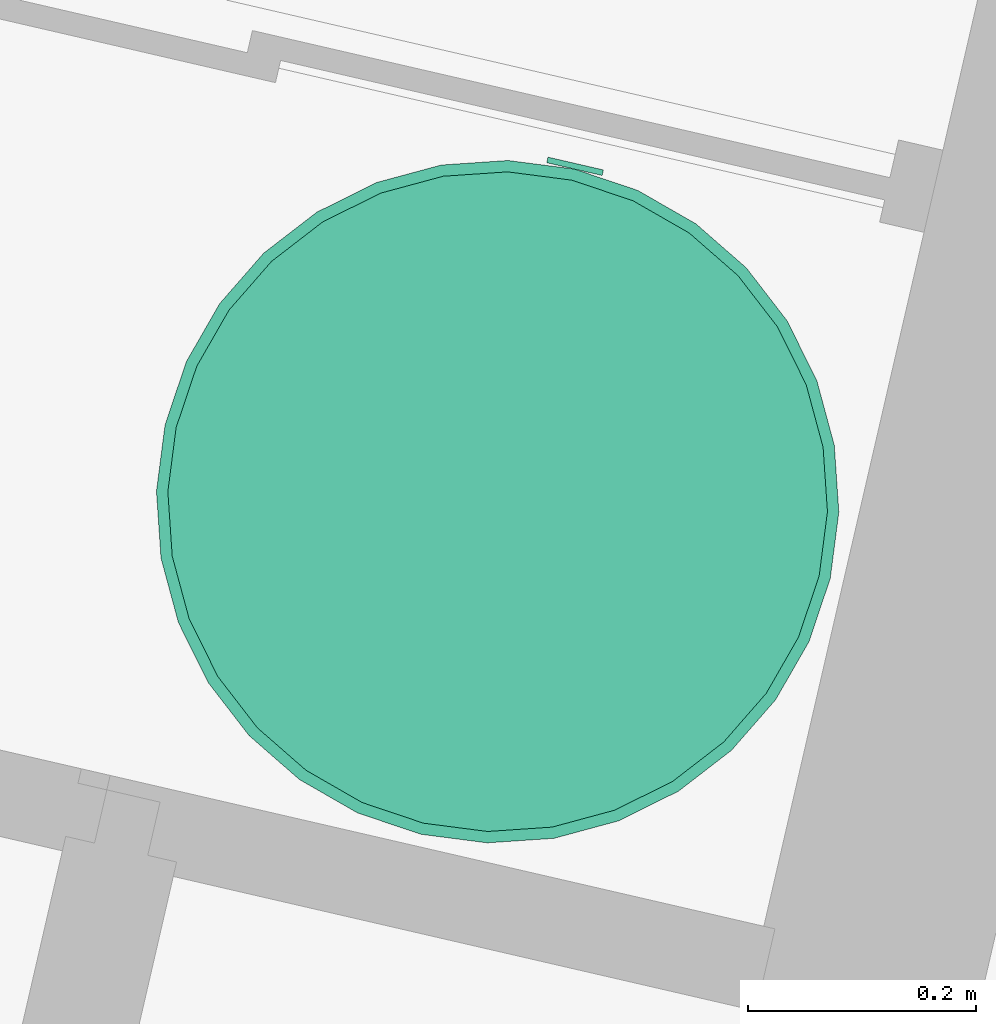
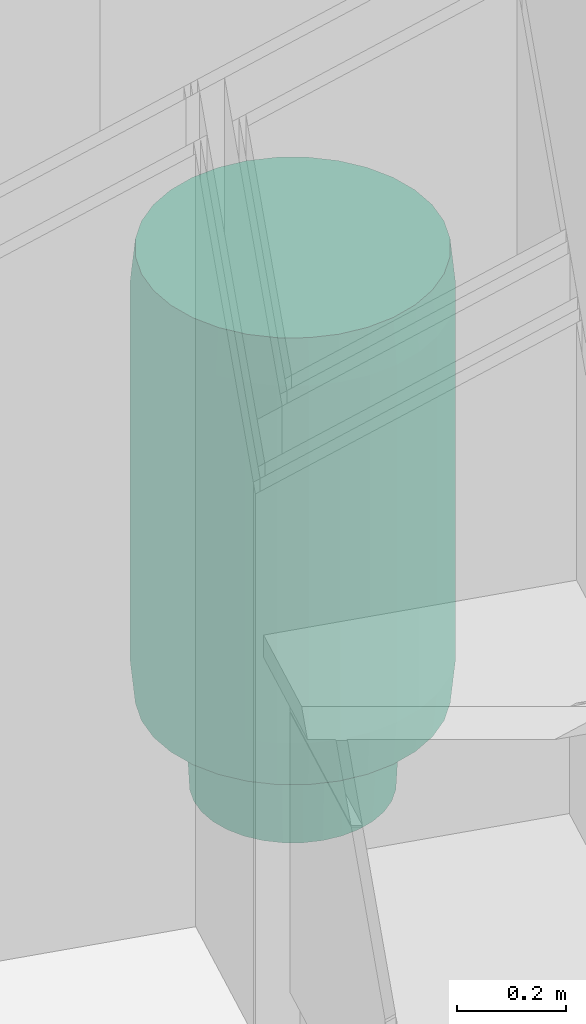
# One storey, part 91 of 119: 1 energy conversion device.
"""IFC2X3 building model written with IfcOpenShell, lengths in metres."""

from ifc_helpers import new_model, entity, si_unit, converted_unit, derived_unit, money_unit, direction, frame, origin_with_axes, place, context, subcontext, project, spatial, open_shell, faceted_brep, surface_model, source, transform, mapped, type_object, element, save


model = new_model("IFC2X3")

# Units and contexts
model_context = context("Model", 3, precision=1e-05, world=origin_with_axes(), true_north=direction((0.0, 1.0)))
body_context = subcontext(model_context, "Body", "Model", "MODEL_VIEW")
ifc_project = project(units=[si_unit("LENGTHUNIT", "METRE"), si_unit("AREAUNIT", "SQUARE_METRE"), si_unit("VOLUMEUNIT", "CUBIC_METRE"), converted_unit("PLANEANGLEUNIT", "DEGREE", entity("IfcPlaneAngleMeasure", 0.0174532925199), si_unit("PLANEANGLEUNIT", "RADIAN"), dimensions=[0, 0, 0, 0, 0, 0, 0]), si_unit("SOLIDANGLEUNIT", "STERADIAN"), money_unit("EUR"), converted_unit("TIMEUNIT", "Year", entity("IfcTimeMeasure", 31556926.0), si_unit("TIMEUNIT", "SECOND"), dimensions=[0, 0, 1, 0, 0, 0, 0]), si_unit("MASSUNIT", "GRAM", prefix="KILO"), si_unit("THERMODYNAMICTEMPERATUREUNIT", "DEGREE_CELSIUS"), si_unit("LUMINOUSINTENSITYUNIT", "LUMEN"), si_unit("ENERGYUNIT", "JOULE", prefix="MEGA"), derived_unit("THERMALCONDUCTANCEUNIT", [(si_unit("POWERUNIT", "WATT"), 1), (si_unit("LENGTHUNIT", "METRE"), -1), (si_unit("THERMODYNAMICTEMPERATUREUNIT", "KELVIN"), -1)]), derived_unit("SPECIFICHEATCAPACITYUNIT", [(si_unit("ENERGYUNIT", "JOULE"), 1), (si_unit("MASSUNIT", "GRAM", prefix="KILO"), -1), (si_unit("THERMODYNAMICTEMPERATUREUNIT", "KELVIN"), -1)]), derived_unit("MASSDENSITYUNIT", [(si_unit("MASSUNIT", "GRAM", prefix="KILO"), 1), (si_unit("VOLUMEUNIT", "CUBIC_METRE"), -1)])], contexts=[model_context])

# Site, building, storey
site_placement = place(None, origin_with_axes())
site = spatial("IfcSite", under=ifc_project, at=site_placement, Name="Site", CompositionType="ELEMENT")
building_placement = place(site_placement, origin_with_axes())
building = spatial("IfcBuilding", under=site, at=building_placement, Name="Bâtiment", CompositionType="ELEMENT")
storey_placement = place(building_placement, origin_with_axes())
storey = spatial("IfcBuildingStorey", under=building, at=storey_placement, Name="Rez-de-chaussée", CompositionType="ELEMENT", Elevation=0.0)

# Energy conversion device
heat_exchanger_type = type_object("IfcHeatExchangerType", Name="Chauffe-eau électrique 23", PredefinedType="SHELLANDTUBE")
shared_shape = source(origin_with_axes(), body_context, "Body", "SurfaceModel", [
    surface_model("IfcShellBasedSurfaceModel", [(-0.245, -0.0135, 0.2), (-0.245, -0.0135, 0.18), (-0.241505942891, -0.0130399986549, 0.18), (-0.241505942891, -0.0130399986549, 0.2), (-0.248494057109, -0.0130399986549, 0.2), (-0.248494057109, -0.0130399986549, 0.18), (-0.23825, -0.0116913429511, 0.18), (-0.23825, -0.0116913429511, 0.2), (-0.25175, -0.0116913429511, 0.2), (-0.25175, -0.0116913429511, 0.18), (-0.235454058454, -0.00954594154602, 0.18), (-0.235454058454, -0.00954594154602, 0.2), (-0.254545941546, -0.00954594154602, 0.2), (-0.254545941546, -0.00954594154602, 0.18), (-0.233308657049, -0.00675, 0.18), (-0.233308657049, -0.00675, 0.2), (-0.256691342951, -0.00675, 0.2), (-0.256691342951, -0.00675, 0.18), (-0.231960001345, -0.00349405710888, 0.18), (-0.231960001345, -0.00349405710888, 0.2), (-0.258039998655, -0.00349405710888, 0.2), (-0.258039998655, -0.00349405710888, 0.18), (-0.2315, 0.0, 0.18), (-0.2315, 0.0, 0.2), (-0.2585, 0.0, 0.2), (-0.2585, 0.0, 0.18), (-0.231960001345, 0.00349405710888, 0.18), (-0.231960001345, 0.00349405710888, 0.2), (-0.258039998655, 0.00349405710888, 0.2), (-0.258039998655, 0.00349405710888, 0.18), (-0.233308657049, 0.00675, 0.18), (-0.233308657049, 0.00675, 0.2), (-0.256691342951, 0.00675, 0.2), (-0.256691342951, 0.00675, 0.18), (-0.235454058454, 0.00954594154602, 0.18), (-0.235454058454, 0.00954594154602, 0.2), (-0.254545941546, 0.00954594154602, 0.2), (-0.254545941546, 0.00954594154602, 0.18), (-0.23825, 0.0116913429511, 0.18), (-0.23825, 0.0116913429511, 0.2), (-0.25175, 0.0116913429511, 0.2), (-0.25175, 0.0116913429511, 0.18), (-0.241505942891, 0.0130399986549, 0.18), (-0.241505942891, 0.0130399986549, 0.2), (-0.248494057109, 0.0130399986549, 0.2), (-0.248494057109, 0.0130399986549, 0.18), (-0.245, 0.0135, 0.18), (-0.245, 0.0135, 0.2)], [open_shell([[[0, 1, 2, 3]], [[4, 5, 1, 0]], [[3, 2, 6, 7]], [[8, 9, 5, 4]], [[7, 6, 10, 11]], [[12, 13, 9, 8]], [[11, 10, 14, 15]], [[16, 17, 13, 12]], [[15, 14, 18, 19]], [[20, 21, 17, 16]], [[19, 18, 22, 23]], [[24, 25, 21, 20]], [[23, 22, 26, 27]], [[28, 29, 25, 24]], [[27, 26, 30, 31]], [[32, 33, 29, 28]], [[31, 30, 34, 35]], [[36, 37, 33, 32]], [[35, 34, 38, 39]], [[40, 41, 37, 36]], [[39, 38, 42, 43]], [[44, 45, 41, 40]], [[43, 42, 46, 47]], [[47, 46, 45, 44]]])]),
    surface_model("IfcShellBasedSurfaceModel", [(0.245, -0.0135, 0.2), (0.245, -0.0135, 0.18), (0.248494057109, -0.0130399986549, 0.18), (0.248494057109, -0.0130399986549, 0.2), (0.241505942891, -0.0130399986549, 0.2), (0.241505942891, -0.0130399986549, 0.18), (0.25175, -0.0116913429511, 0.18), (0.25175, -0.0116913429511, 0.2), (0.23825, -0.0116913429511, 0.2), (0.23825, -0.0116913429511, 0.18), (0.254545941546, -0.00954594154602, 0.18), (0.254545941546, -0.00954594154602, 0.2), (0.235454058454, -0.00954594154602, 0.2), (0.235454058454, -0.00954594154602, 0.18), (0.256691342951, -0.00675, 0.18), (0.256691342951, -0.00675, 0.2), (0.233308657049, -0.00675, 0.2), (0.233308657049, -0.00675, 0.18), (0.258039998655, -0.00349405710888, 0.18), (0.258039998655, -0.00349405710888, 0.2), (0.231960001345, -0.00349405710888, 0.2), (0.231960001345, -0.00349405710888, 0.18), (0.2585, 0.0, 0.18), (0.2585, 0.0, 0.2), (0.2315, 0.0, 0.2), (0.2315, 0.0, 0.18), (0.258039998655, 0.00349405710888, 0.18), (0.258039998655, 0.00349405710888, 0.2), (0.231960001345, 0.00349405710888, 0.2), (0.231960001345, 0.00349405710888, 0.18), (0.256691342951, 0.00675, 0.18), (0.256691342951, 0.00675, 0.2), (0.233308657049, 0.00675, 0.2), (0.233308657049, 0.00675, 0.18), (0.254545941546, 0.00954594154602, 0.18), (0.254545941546, 0.00954594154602, 0.2), (0.235454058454, 0.00954594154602, 0.2), (0.235454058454, 0.00954594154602, 0.18), (0.25175, 0.0116913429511, 0.18), (0.25175, 0.0116913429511, 0.2), (0.23825, 0.0116913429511, 0.2), (0.23825, 0.0116913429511, 0.18), (0.248494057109, 0.0130399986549, 0.18), (0.248494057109, 0.0130399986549, 0.2), (0.241505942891, 0.0130399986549, 0.2), (0.241505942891, 0.0130399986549, 0.18), (0.245, 0.0135, 0.18), (0.245, 0.0135, 0.2)], [open_shell([[[0, 1, 2, 3]], [[4, 5, 1, 0]], [[3, 2, 6, 7]], [[8, 9, 5, 4]], [[7, 6, 10, 11]], [[12, 13, 9, 8]], [[11, 10, 14, 15]], [[16, 17, 13, 12]], [[15, 14, 18, 19]], [[20, 21, 17, 16]], [[19, 18, 22, 23]], [[24, 25, 21, 20]], [[23, 22, 26, 27]], [[28, 29, 25, 24]], [[27, 26, 30, 31]], [[32, 33, 29, 28]], [[31, 30, 34, 35]], [[36, 37, 33, 32]], [[35, 34, 38, 39]], [[40, 41, 37, 36]], [[39, 38, 42, 43]], [[44, 45, 41, 40]], [[43, 42, 46, 47]], [[47, 46, 45, 44]]])]),
    faceted_brep([(-0.025, -0.305, 0.4), (-0.025, -0.3, 0.4), (0.025, -0.3, 0.4), (0.025, -0.305, 0.4), (-0.025, -0.305, 0.42), (-0.025, -0.3, 0.42), (0.025, -0.3, 0.42), (0.025, -0.305, 0.42)], [[[0, 1, 2, 3]], [[0, 4, 5, 1]], [[1, 5, 6, 2]], [[2, 6, 7, 3]], [[3, 7, 4, 0]], [[7, 6, 5, 4]]]),
    faceted_brep([(0.0222836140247, -0.16, 0.088519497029), (0.02, -0.16, 0.1), (0.0222836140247, -0.16, 0.111480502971), (0.0287867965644, -0.16, 0.121213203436), (0.038519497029, -0.16, 0.127716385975), (0.05, -0.16, 0.13), (0.061480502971, -0.16, 0.127716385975), (0.0712132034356, -0.16, 0.121213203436), (0.0777163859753, -0.16, 0.111480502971), (0.08, -0.16, 0.1), (0.0777163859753, -0.16, 0.088519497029), (0.0712132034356, -0.16, 0.0787867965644), (0.061480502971, -0.16, 0.0722836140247), (0.05, -0.16, 0.07), (0.038519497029, -0.16, 0.0722836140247), (0.0287867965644, -0.16, 0.0787867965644), (0.0222836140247, -0.175, 0.088519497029), (0.02, -0.175, 0.1), (0.0222836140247, -0.175, 0.111480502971), (0.0287867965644, -0.175, 0.121213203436), (0.038519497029, -0.175, 0.127716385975), (0.05, -0.175, 0.13), (0.061480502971, -0.175, 0.127716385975), (0.0712132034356, -0.175, 0.121213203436), (0.0777163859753, -0.175, 0.111480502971), (0.08, -0.175, 0.1), (0.0777163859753, -0.175, 0.088519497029), (0.0712132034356, -0.175, 0.0787867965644), (0.061480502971, -0.175, 0.0722836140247), (0.05, -0.175, 0.07), (0.038519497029, -0.175, 0.0722836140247), (0.0287867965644, -0.175, 0.0787867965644)], [[[0, 1, 2, 3, 4, 5, 6, 7, 8, 9, 10, 11, 12, 13, 14, 15]], [[0, 16, 17, 1]], [[1, 17, 18, 2]], [[2, 18, 19, 3]], [[3, 19, 20, 4]], [[4, 20, 21, 5]], [[5, 21, 22, 6]], [[6, 22, 23, 7]], [[7, 23, 24, 8]], [[8, 24, 25, 9]], [[9, 25, 26, 10]], [[10, 26, 27, 11]], [[11, 27, 28, 12]], [[12, 28, 29, 13]], [[13, 29, 30, 14]], [[14, 30, 31, 15]], [[15, 31, 16, 0]], [[16, 31, 30, 29, 28, 27, 26, 25, 24, 23, 22, 21, 20, 19, 18, 17]]]),
    faceted_brep([(-0.0777163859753, -0.16, 0.088519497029), (-0.08, -0.16, 0.1), (-0.0777163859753, -0.16, 0.111480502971), (-0.0712132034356, -0.16, 0.121213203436), (-0.061480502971, -0.16, 0.127716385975), (-0.05, -0.16, 0.13), (-0.038519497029, -0.16, 0.127716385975), (-0.0287867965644, -0.16, 0.121213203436), (-0.0222836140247, -0.16, 0.111480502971), (-0.02, -0.16, 0.1), (-0.0222836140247, -0.16, 0.088519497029), (-0.0287867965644, -0.16, 0.0787867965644), (-0.038519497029, -0.16, 0.0722836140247), (-0.05, -0.16, 0.07), (-0.061480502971, -0.16, 0.0722836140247), (-0.0712132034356, -0.16, 0.0787867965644), (-0.0777163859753, -0.175, 0.088519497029), (-0.08, -0.175, 0.1), (-0.0777163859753, -0.175, 0.111480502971), (-0.0712132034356, -0.175, 0.121213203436), (-0.061480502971, -0.175, 0.127716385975), (-0.05, -0.175, 0.13), (-0.038519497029, -0.175, 0.127716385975), (-0.0287867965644, -0.175, 0.121213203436), (-0.0222836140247, -0.175, 0.111480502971), (-0.02, -0.175, 0.1), (-0.0222836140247, -0.175, 0.088519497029), (-0.0287867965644, -0.175, 0.0787867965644), (-0.038519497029, -0.175, 0.0722836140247), (-0.05, -0.175, 0.07), (-0.061480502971, -0.175, 0.0722836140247), (-0.0712132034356, -0.175, 0.0787867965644)], [[[0, 1, 2, 3, 4, 5, 6, 7, 8, 9, 10, 11, 12, 13, 14, 15]], [[0, 16, 17, 1]], [[1, 17, 18, 2]], [[2, 18, 19, 3]], [[3, 19, 20, 4]], [[4, 20, 21, 5]], [[5, 21, 22, 6]], [[6, 22, 23, 7]], [[7, 23, 24, 8]], [[8, 24, 25, 9]], [[9, 25, 26, 10]], [[10, 26, 27, 11]], [[11, 27, 28, 12]], [[12, 28, 29, 13]], [[13, 29, 30, 14]], [[14, 30, 31, 15]], [[15, 31, 16, 0]], [[16, 31, 30, 29, 28, 27, 26, 25, 24, 23, 22, 21, 20, 19, 18, 17]]]),
    faceted_brep([(-0.186349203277, -0.0370671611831, 0.0), (-0.196157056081, -0.0390180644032, 0.2), (-0.2, 0.0, 0.2), (-0.19, 0.0, 0.0), (-0.175537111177, -0.0727098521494, 0.0), (-0.184775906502, -0.076536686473, 0.2), (-0.166293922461, -0.111114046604, 0.2), (-0.141421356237, -0.141421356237, 0.2), (-0.118783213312, -0.16, 0.2), (0.118783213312, -0.16, 0.2), (0.141421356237, -0.141421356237, 0.2), (0.166293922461, -0.111114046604, 0.2), (0.184775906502, -0.076536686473, 0.2), (0.196157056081, -0.0390180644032, 0.2), (0.2, 0.0, 0.2), (0.196157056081, 0.0390180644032, 0.2), (0.184775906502, 0.076536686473, 0.2), (0.166293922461, 0.111114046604, 0.2), (0.141421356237, 0.141421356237, 0.2), (0.111114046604, 0.166293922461, 0.2), (0.076536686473, 0.184775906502, 0.2), (0.0390180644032, 0.196157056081, 0.2), (0.0, 0.2, 0.2), (-0.0390180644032, 0.196157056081, 0.2), (-0.076536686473, 0.184775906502, 0.2), (-0.111114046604, 0.166293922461, 0.2), (-0.141421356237, 0.141421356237, 0.2), (-0.166293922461, 0.111114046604, 0.2), (-0.184775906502, 0.076536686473, 0.2), (-0.196157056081, 0.0390180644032, 0.2), (-0.186349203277, 0.0370671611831, 0.0), (-0.175537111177, 0.0727098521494, 0.0), (-0.157979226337, 0.105558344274, 0.0), (-0.134350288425, 0.134350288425, 0.0), (-0.105558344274, 0.157979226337, 0.0), (-0.0727098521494, 0.175537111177, 0.0), (-0.0370671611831, 0.186349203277, 0.0), (0.0, 0.19, 0.0), (0.0370671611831, 0.186349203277, 0.0), (0.0727098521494, 0.175537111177, 0.0), (0.105558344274, 0.157979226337, 0.0), (0.134350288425, 0.134350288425, 0.0), (0.157979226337, 0.105558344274, 0.0), (0.175537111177, 0.0727098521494, 0.0), (0.186349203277, 0.0370671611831, 0.0), (0.19, 0.0, 0.0), (0.186349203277, -0.0370671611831, 0.0), (0.175537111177, -0.0727098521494, 0.0), (0.157979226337, -0.105558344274, 0.0), (0.134350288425, -0.134350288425, 0.0), (0.105558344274, -0.157979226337, 0.0), (0.101777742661, -0.16, 0.0), (-0.101777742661, -0.16, 0.0), (-0.105558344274, -0.157979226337, 0.0), (-0.134350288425, -0.134350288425, 0.0), (-0.157979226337, -0.105558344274, 0.0), (-0.106908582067, -0.16, 0.0486072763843), (0.106908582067, -0.16, 0.0486072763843)], [[[0, 1, 2, 3]], [[4, 5, 1, 0]], [[1, 5, 6, 7, 8, 9, 10, 11, 12, 13, 14, 15, 16, 17, 18, 19, 20, 21, 22, 23, 24, 25, 26, 27, 28, 29, 2]], [[3, 2, 29, 30]], [[0, 3, 30, 31, 32, 33, 34, 35, 36, 37, 38, 39, 40, 41, 42, 43, 44, 45, 46, 47, 48, 49, 50, 51, 52, 53, 54, 55, 4]], [[55, 6, 5, 4]], [[54, 7, 6, 55]], [[53, 56, 8, 7, 54]], [[51, 57, 9, 8, 56, 52]], [[49, 10, 9, 57, 50]], [[48, 11, 10, 49]], [[47, 12, 11, 48]], [[46, 13, 12, 47]], [[45, 14, 13, 46]], [[44, 15, 14, 45]], [[43, 16, 15, 44]], [[42, 17, 16, 43]], [[41, 18, 17, 42]], [[40, 19, 18, 41]], [[39, 20, 19, 40]], [[38, 21, 20, 39]], [[37, 22, 21, 38]], [[36, 23, 22, 37]], [[35, 24, 23, 36]], [[34, 25, 24, 35]], [[33, 26, 25, 34]], [[32, 27, 26, 33]], [[31, 28, 27, 32]], [[30, 29, 28, 31]], [[50, 57, 51]], [[52, 56, 53]]]),
    faceted_brep([(-0.284427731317, -0.0565761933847, 0.2), (-0.294235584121, -0.0585270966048, 0.3), (-0.3, 0.0, 0.3), (-0.29, 0.0, 0.2), (-0.267925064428, -0.110978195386, 0.2), (-0.277163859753, -0.11480502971, 0.3), (-0.249440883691, -0.166671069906, 0.3), (-0.212132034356, -0.212132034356, 0.3), (-0.166671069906, -0.249440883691, 0.3), (-0.11480502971, -0.277163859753, 0.3), (-0.0585270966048, -0.294235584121, 0.3), (0.0, -0.3, 0.3), (0.0585270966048, -0.294235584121, 0.3), (0.11480502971, -0.277163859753, 0.3), (0.166671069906, -0.249440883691, 0.3), (0.212132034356, -0.212132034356, 0.3), (0.249440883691, -0.166671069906, 0.3), (0.277163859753, -0.11480502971, 0.3), (0.294235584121, -0.0585270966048, 0.3), (0.3, 0.0, 0.3), (0.294235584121, 0.0585270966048, 0.3), (0.277163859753, 0.11480502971, 0.3), (0.249440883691, 0.166671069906, 0.3), (0.212132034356, 0.212132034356, 0.3), (0.166671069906, 0.249440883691, 0.3), (0.11480502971, 0.277163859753, 0.3), (0.0585270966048, 0.294235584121, 0.3), (0.0, 0.3, 0.3), (-0.0585270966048, 0.294235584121, 0.3), (-0.11480502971, 0.277163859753, 0.3), (-0.166671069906, 0.249440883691, 0.3), (-0.212132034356, 0.212132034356, 0.3), (-0.249440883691, 0.166671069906, 0.3), (-0.277163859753, 0.11480502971, 0.3), (-0.294235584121, 0.0585270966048, 0.3), (-0.284427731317, 0.0565761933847, 0.2), (-0.267925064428, 0.110978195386, 0.2), (-0.241126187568, 0.161115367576, 0.2), (-0.205060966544, 0.205060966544, 0.2), (-0.161115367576, 0.241126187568, 0.2), (-0.110978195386, 0.267925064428, 0.2), (-0.0565761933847, 0.284427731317, 0.2), (0.0, 0.29, 0.2), (0.0565761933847, 0.284427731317, 0.2), (0.110978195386, 0.267925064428, 0.2), (0.161115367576, 0.241126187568, 0.2), (0.205060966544, 0.205060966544, 0.2), (0.241126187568, 0.161115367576, 0.2), (0.267925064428, 0.110978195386, 0.2), (0.284427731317, 0.0565761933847, 0.2), (0.29, 0.0, 0.2), (0.284427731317, -0.0565761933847, 0.2), (0.267925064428, -0.110978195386, 0.2), (0.241126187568, -0.161115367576, 0.2), (0.205060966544, -0.205060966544, 0.2), (0.161115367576, -0.241126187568, 0.2), (0.110978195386, -0.267925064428, 0.2), (0.0565761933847, -0.284427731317, 0.2), (0.0, -0.29, 0.2), (-0.0565761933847, -0.284427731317, 0.2), (-0.110978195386, -0.267925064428, 0.2), (-0.161115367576, -0.241126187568, 0.2), (-0.205060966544, -0.205060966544, 0.2), (-0.241126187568, -0.161115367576, 0.2)], [[[0, 1, 2, 3]], [[4, 5, 1, 0]], [[1, 5, 6, 7, 8, 9, 10, 11, 12, 13, 14, 15, 16, 17, 18, 19, 20, 21, 22, 23, 24, 25, 26, 27, 28, 29, 30, 31, 32, 33, 34, 2]], [[3, 2, 34, 35]], [[0, 3, 35, 36, 37, 38, 39, 40, 41, 42, 43, 44, 45, 46, 47, 48, 49, 50, 51, 52, 53, 54, 55, 56, 57, 58, 59, 60, 61, 62, 63, 4]], [[63, 6, 5, 4]], [[62, 7, 6, 63]], [[61, 8, 7, 62]], [[60, 9, 8, 61]], [[59, 10, 9, 60]], [[58, 11, 10, 59]], [[57, 12, 11, 58]], [[56, 13, 12, 57]], [[55, 14, 13, 56]], [[54, 15, 14, 55]], [[53, 16, 15, 54]], [[52, 17, 16, 53]], [[51, 18, 17, 52]], [[50, 19, 18, 51]], [[49, 20, 19, 50]], [[48, 21, 20, 49]], [[47, 22, 21, 48]], [[46, 23, 22, 47]], [[45, 24, 23, 46]], [[44, 25, 24, 45]], [[43, 26, 25, 44]], [[42, 27, 26, 43]], [[41, 28, 27, 42]], [[40, 29, 28, 41]], [[39, 30, 29, 40]], [[38, 31, 30, 39]], [[37, 32, 31, 38]], [[36, 33, 32, 37]], [[35, 34, 33, 36]]]),
    faceted_brep([(-0.294235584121, -0.0585270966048, 0.3), (-0.3, 0.0, 0.3), (-0.294235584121, 0.0585270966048, 0.3), (-0.277163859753, 0.11480502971, 0.3), (-0.249440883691, 0.166671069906, 0.3), (-0.212132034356, 0.212132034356, 0.3), (-0.166671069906, 0.249440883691, 0.3), (-0.11480502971, 0.277163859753, 0.3), (-0.0585270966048, 0.294235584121, 0.3), (0.0, 0.3, 0.3), (0.0585270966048, 0.294235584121, 0.3), (0.11480502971, 0.277163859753, 0.3), (0.166671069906, 0.249440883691, 0.3), (0.212132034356, 0.212132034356, 0.3), (0.249440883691, 0.166671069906, 0.3), (0.277163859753, 0.11480502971, 0.3), (0.294235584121, 0.0585270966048, 0.3), (0.3, 0.0, 0.3), (0.294235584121, -0.0585270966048, 0.3), (0.277163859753, -0.11480502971, 0.3), (0.249440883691, -0.166671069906, 0.3), (0.212132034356, -0.212132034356, 0.3), (0.166671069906, -0.249440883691, 0.3), (0.11480502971, -0.277163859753, 0.3), (0.0585270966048, -0.294235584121, 0.3), (0.0, -0.3, 0.3), (-0.0585270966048, -0.294235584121, 0.3), (-0.11480502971, -0.277163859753, 0.3), (-0.166671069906, -0.249440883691, 0.3), (-0.212132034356, -0.212132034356, 0.3), (-0.249440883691, -0.166671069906, 0.3), (-0.277163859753, -0.11480502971, 0.3), (-0.294235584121, -0.0585270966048, 1.1), (-0.3, 0.0, 1.1), (-0.294235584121, 0.0585270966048, 1.1), (-0.277163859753, 0.11480502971, 1.1), (-0.249440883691, 0.166671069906, 1.1), (-0.212132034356, 0.212132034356, 1.1), (-0.166671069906, 0.249440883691, 1.1), (-0.11480502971, 0.277163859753, 1.1), (-0.0585270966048, 0.294235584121, 1.1), (0.0, 0.3, 1.1), (0.0585270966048, 0.294235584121, 1.1), (0.11480502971, 0.277163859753, 1.1), (0.166671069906, 0.249440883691, 1.1), (0.212132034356, 0.212132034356, 1.1), (0.249440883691, 0.166671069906, 1.1), (0.277163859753, 0.11480502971, 1.1), (0.294235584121, 0.0585270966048, 1.1), (0.3, 0.0, 1.1), (0.294235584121, -0.0585270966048, 1.1), (0.277163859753, -0.11480502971, 1.1), (0.249440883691, -0.166671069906, 1.1), (0.212132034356, -0.212132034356, 1.1), (0.166671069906, -0.249440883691, 1.1), (0.11480502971, -0.277163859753, 1.1), (0.0585270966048, -0.294235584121, 1.1), (0.0, -0.3, 1.1), (-0.0585270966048, -0.294235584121, 1.1), (-0.11480502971, -0.277163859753, 1.1), (-0.166671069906, -0.249440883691, 1.1), (-0.212132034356, -0.212132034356, 1.1), (-0.249440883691, -0.166671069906, 1.1), (-0.277163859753, -0.11480502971, 1.1)], [[[0, 1, 2, 3, 4, 5, 6, 7, 8, 9, 10, 11, 12, 13, 14, 15, 16, 17, 18, 19, 20, 21, 22, 23, 24, 25, 26, 27, 28, 29, 30, 31]], [[0, 32, 33, 1]], [[1, 33, 34, 2]], [[2, 34, 35, 3]], [[3, 35, 36, 4]], [[4, 36, 37, 5]], [[5, 37, 38, 6]], [[6, 38, 39, 7]], [[7, 39, 40, 8]], [[8, 40, 41, 9]], [[9, 41, 42, 10]], [[10, 42, 43, 11]], [[11, 43, 44, 12]], [[12, 44, 45, 13]], [[13, 45, 46, 14]], [[14, 46, 47, 15]], [[15, 47, 48, 16]], [[16, 48, 49, 17]], [[17, 49, 50, 18]], [[18, 50, 51, 19]], [[19, 51, 52, 20]], [[20, 52, 53, 21]], [[21, 53, 54, 22]], [[22, 54, 55, 23]], [[23, 55, 56, 24]], [[24, 56, 57, 25]], [[25, 57, 58, 26]], [[26, 58, 59, 27]], [[27, 59, 60, 28]], [[28, 60, 61, 29]], [[29, 61, 62, 30]], [[30, 62, 63, 31]], [[31, 63, 32, 0]], [[32, 63, 62, 61, 60, 59, 58, 57, 56, 55, 54, 53, 52, 51, 50, 49, 48, 47, 46, 45, 44, 43, 42, 41, 40, 39, 38, 37, 36, 35, 34, 33]]]),
    faceted_brep([(-0.294235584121, -0.0585270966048, 1.1), (-0.284427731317, -0.0565761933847, 1.2), (-0.29, 0.0, 1.2), (-0.3, 0.0, 1.1), (-0.277163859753, -0.11480502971, 1.1), (-0.267925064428, -0.110978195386, 1.2), (-0.241126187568, -0.161115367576, 1.2), (-0.205060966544, -0.205060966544, 1.2), (-0.161115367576, -0.241126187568, 1.2), (-0.110978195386, -0.267925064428, 1.2), (-0.0565761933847, -0.284427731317, 1.2), (0.0, -0.29, 1.2), (0.0565761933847, -0.284427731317, 1.2), (0.110978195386, -0.267925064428, 1.2), (0.161115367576, -0.241126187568, 1.2), (0.205060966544, -0.205060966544, 1.2), (0.241126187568, -0.161115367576, 1.2), (0.267925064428, -0.110978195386, 1.2), (0.284427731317, -0.0565761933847, 1.2), (0.29, 0.0, 1.2), (0.284427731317, 0.0565761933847, 1.2), (0.267925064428, 0.110978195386, 1.2), (0.241126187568, 0.161115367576, 1.2), (0.205060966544, 0.205060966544, 1.2), (0.161115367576, 0.241126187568, 1.2), (0.110978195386, 0.267925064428, 1.2), (0.0565761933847, 0.284427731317, 1.2), (0.0, 0.29, 1.2), (-0.0565761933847, 0.284427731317, 1.2), (-0.110978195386, 0.267925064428, 1.2), (-0.161115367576, 0.241126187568, 1.2), (-0.205060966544, 0.205060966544, 1.2), (-0.241126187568, 0.161115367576, 1.2), (-0.267925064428, 0.110978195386, 1.2), (-0.284427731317, 0.0565761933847, 1.2), (-0.294235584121, 0.0585270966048, 1.1), (-0.277163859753, 0.11480502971, 1.1), (-0.249440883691, 0.166671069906, 1.1), (-0.212132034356, 0.212132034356, 1.1), (-0.166671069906, 0.249440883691, 1.1), (-0.11480502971, 0.277163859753, 1.1), (-0.0585270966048, 0.294235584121, 1.1), (0.0, 0.3, 1.1), (0.0585270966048, 0.294235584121, 1.1), (0.11480502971, 0.277163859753, 1.1), (0.166671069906, 0.249440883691, 1.1), (0.212132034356, 0.212132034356, 1.1), (0.249440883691, 0.166671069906, 1.1), (0.277163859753, 0.11480502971, 1.1), (0.294235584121, 0.0585270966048, 1.1), (0.3, 0.0, 1.1), (0.294235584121, -0.0585270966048, 1.1), (0.277163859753, -0.11480502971, 1.1), (0.249440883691, -0.166671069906, 1.1), (0.212132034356, -0.212132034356, 1.1), (0.166671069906, -0.249440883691, 1.1), (0.11480502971, -0.277163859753, 1.1), (0.0585270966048, -0.294235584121, 1.1), (0.0, -0.3, 1.1), (-0.0585270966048, -0.294235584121, 1.1), (-0.11480502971, -0.277163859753, 1.1), (-0.166671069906, -0.249440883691, 1.1), (-0.212132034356, -0.212132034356, 1.1), (-0.249440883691, -0.166671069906, 1.1)], [[[0, 1, 2, 3]], [[4, 5, 1, 0]], [[1, 5, 6, 7, 8, 9, 10, 11, 12, 13, 14, 15, 16, 17, 18, 19, 20, 21, 22, 23, 24, 25, 26, 27, 28, 29, 30, 31, 32, 33, 34, 2]], [[3, 2, 34, 35]], [[0, 3, 35, 36, 37, 38, 39, 40, 41, 42, 43, 44, 45, 46, 47, 48, 49, 50, 51, 52, 53, 54, 55, 56, 57, 58, 59, 60, 61, 62, 63, 4]], [[63, 6, 5, 4]], [[62, 7, 6, 63]], [[61, 8, 7, 62]], [[60, 9, 8, 61]], [[59, 10, 9, 60]], [[58, 11, 10, 59]], [[57, 12, 11, 58]], [[56, 13, 12, 57]], [[55, 14, 13, 56]], [[54, 15, 14, 55]], [[53, 16, 15, 54]], [[52, 17, 16, 53]], [[51, 18, 17, 52]], [[50, 19, 18, 51]], [[49, 20, 19, 50]], [[48, 21, 20, 49]], [[47, 22, 21, 48]], [[46, 23, 22, 47]], [[45, 24, 23, 46]], [[44, 25, 24, 45]], [[43, 26, 25, 44]], [[42, 27, 26, 43]], [[41, 28, 27, 42]], [[40, 29, 28, 41]], [[39, 30, 29, 40]], [[38, 31, 30, 39]], [[37, 32, 31, 38]], [[36, 33, 32, 37]], [[35, 34, 33, 36]]]),
])
energy_conversion_device_placement = place(storey_placement, frame((-14.1312111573, -12.5411158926, 0.0), z_axis=(0.0, 0.0, 1.0), x_axis=(-0.97438734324, 0.224876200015, 0.0)))
element("IfcEnergyConversionDevice", 1, at=energy_conversion_device_placement, inside=storey, type_object=heat_exchanger_type, Name="MOB-002", context=body_context, shape_type="MappedRepresentation", body=[
    mapped(shared_shape, transform((0.0, 0.0, 0.0))),
])

save(model, "model.ifc")
